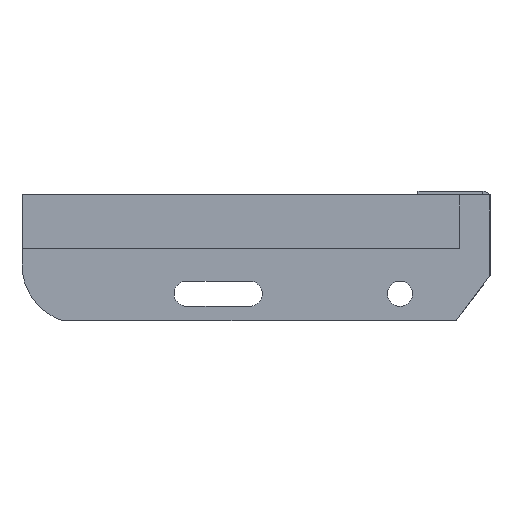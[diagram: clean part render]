
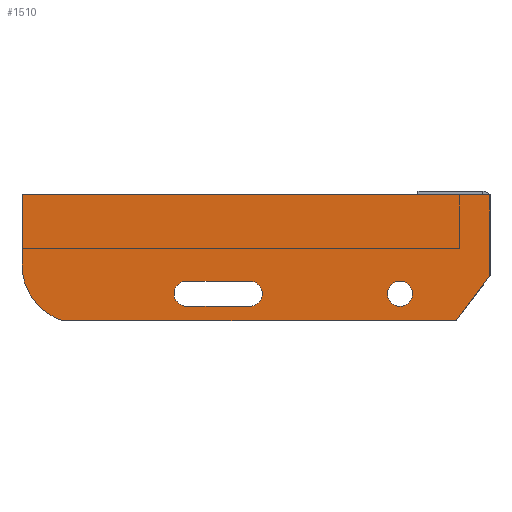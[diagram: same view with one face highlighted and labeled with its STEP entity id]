
A CAD part, left-side view. The second image highlights one B-rep face of the part: STEP entity #1510.
In plain terms, the highlighted planar face has unit normal (-1, 0, 0) as drawn and (0, 0, 1) by its records, which use the part's own axes.
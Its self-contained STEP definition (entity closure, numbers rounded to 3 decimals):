
#26 = EDGE_LOOP ( 'NONE', ( #641, #803, #751, #86, #760, #1538 ) ) ;
#33 = VERTEX_POINT ( 'NONE', #1019 ) ;
#38 = AXIS2_PLACEMENT_3D ( 'NONE', #1896, #489, #1738 ) ;
#70 = PLANE ( 'NONE',  #420 ) ;
#73 = EDGE_CURVE ( 'NONE', #260, #883, #666, .T. ) ;
#86 = ORIENTED_EDGE ( 'NONE', *, *, #1633, .T. ) ;
#96 = VERTEX_POINT ( 'NONE', #1001 ) ;
#115 = VERTEX_POINT ( 'NONE', #836 ) ;
#118 = DIRECTION ( 'NONE',  ( 0., 0., 1. ) ) ;
#146 = EDGE_CURVE ( 'NONE', #33, #1758, #831, .T. ) ;
#177 = CIRCLE ( 'NONE', #1146, 7. ) ;
#213 = CARTESIAN_POINT ( 'NONE',  ( -168.5, -62., 3. ) ) ;
#224 = DIRECTION ( 'NONE',  ( 0., 0., 1. ) ) ;
#236 = CIRCLE ( 'NONE', #1807, 7. ) ;
#248 = FACE_BOUND ( 'NONE', #585, .T. ) ;
#256 = VECTOR ( 'NONE', #1075, 1000. ) ;
#260 = VERTEX_POINT ( 'NONE', #1674 ) ;
#284 = ORIENTED_EDGE ( 'NONE', *, *, #1202, .F. ) ;
#291 = DIRECTION ( 'NONE',  ( 0., -1., 0. ) ) ;
#299 = EDGE_CURVE ( 'NONE', #1758, #1809, #435, .T. ) ;
#333 = DIRECTION ( 'NONE',  ( 0., 0., 1. ) ) ;
#338 = AXIS2_PLACEMENT_3D ( 'NONE', #1606, #518, #587 ) ;
#420 = AXIS2_PLACEMENT_3D ( 'NONE', #1159, #1799, #1619 ) ;
#431 = EDGE_CURVE ( 'NONE', #115, #96, #1109, .T. ) ;
#435 = LINE ( 'NONE', #1682, #1311 ) ;
#438 = ORIENTED_EDGE ( 'NONE', *, *, #929, .F. ) ;
#468 = CARTESIAN_POINT ( 'NONE',  ( -168.5, -48., 3. ) ) ;
#489 = DIRECTION ( 'NONE',  ( 0., 0., 1. ) ) ;
#518 = DIRECTION ( 'NONE',  ( 0., 0., 1. ) ) ;
#523 = EDGE_CURVE ( 'NONE', #718, #894, #177, .T. ) ;
#585 = EDGE_LOOP ( 'NONE', ( #438, #1054, #284, #905, #972 ) ) ;
#587 = DIRECTION ( 'NONE',  ( 1., 0., 0. ) ) ;
#605 = VERTEX_POINT ( 'NONE', #1158 ) ;
#641 = ORIENTED_EDGE ( 'NONE', *, *, #1777, .T. ) ;
#650 = VERTEX_POINT ( 'NONE', #811 ) ;
#655 = CARTESIAN_POINT ( 'NONE',  ( -260., -39., 3. ) ) ;
#666 = CIRCLE ( 'NONE', #1912, 7. ) ;
#692 = CARTESIAN_POINT ( 'NONE',  ( -133.5, -48., 3. ) ) ;
#718 = VERTEX_POINT ( 'NONE', #1016 ) ;
#736 = EDGE_CURVE ( 'NONE', #883, #260, #915, .T. ) ;
#740 = VECTOR ( 'NONE', #1387, 1000. ) ;
#751 = ORIENTED_EDGE ( 'NONE', *, *, #299, .T. ) ;
#760 = ORIENTED_EDGE ( 'NONE', *, *, #1628, .T. ) ;
#789 = DIRECTION ( 'NONE',  ( 1., 0., 0. ) ) ;
#791 = LINE ( 'NONE', #1088, #256 ) ;
#803 = ORIENTED_EDGE ( 'NONE', *, *, #146, .T. ) ;
#811 = CARTESIAN_POINT ( 'NONE',  ( -168.5, -48., 3. ) ) ;
#821 = FACE_OUTER_BOUND ( 'NONE', #26, .T. ) ;
#831 = LINE ( 'NONE', #859, #1396 ) ;
#834 = VECTOR ( 'NONE', #1377, 1000. ) ;
#836 = CARTESIAN_POINT ( 'NONE',  ( -18.839, -70., 3. ) ) ;
#859 = CARTESIAN_POINT ( 'NONE',  ( 0., 0., 3. ) ) ;
#883 = VERTEX_POINT ( 'NONE', #1493 ) ;
#894 = VERTEX_POINT ( 'NONE', #692 ) ;
#905 = ORIENTED_EDGE ( 'NONE', *, *, #1360, .F. ) ;
#910 = CARTESIAN_POINT ( 'NONE',  ( -227.5, -39., 3. ) ) ;
#915 = CIRCLE ( 'NONE', #338, 7. ) ;
#929 = EDGE_CURVE ( 'NONE', #1413, #718, #994, .T. ) ;
#931 = DIRECTION ( 'NONE',  ( 0., 0., 1. ) ) ;
#937 = CARTESIAN_POINT ( 'NONE',  ( -175.5, -55., 3. ) ) ;
#947 = CIRCLE ( 'NONE', #38, 7. ) ;
#967 = DIRECTION ( 'NONE',  ( 0.602, 0.799, 0. ) ) ;
#972 = ORIENTED_EDGE ( 'NONE', *, *, #523, .F. ) ;
#994 = LINE ( 'NONE', #1131, #1080 ) ;
#1001 = CARTESIAN_POINT ( 'NONE',  ( 0., -45., 3. ) ) ;
#1016 = CARTESIAN_POINT ( 'NONE',  ( -133.5, -62., 3. ) ) ;
#1017 = FACE_BOUND ( 'NONE', #1376, .T. ) ;
#1019 = CARTESIAN_POINT ( 'NONE',  ( 0., 0., 3. ) ) ;
#1031 = LINE ( 'NONE', #1533, #740 ) ;
#1054 = ORIENTED_EDGE ( 'NONE', *, *, #1228, .F. ) ;
#1075 = DIRECTION ( 'NONE',  ( 0., 1., 0. ) ) ;
#1080 = VECTOR ( 'NONE', #1614, 1000. ) ;
#1088 = CARTESIAN_POINT ( 'NONE',  ( 0., 0., 3. ) ) ;
#1109 = LINE ( 'NONE', #1568, #1849 ) ;
#1131 = CARTESIAN_POINT ( 'NONE',  ( -168.5, -62., 3. ) ) ;
#1146 = AXIS2_PLACEMENT_3D ( 'NONE', #1397, #333, #1909 ) ;
#1158 = CARTESIAN_POINT ( 'NONE',  ( -237.26, -70., 3. ) ) ;
#1159 = CARTESIAN_POINT ( 'NONE',  ( -227.5, -39., 3. ) ) ;
#1202 = EDGE_CURVE ( 'NONE', #650, #1265, #236, .T. ) ;
#1223 = LINE ( 'NONE', #468, #834 ) ;
#1224 = CIRCLE ( 'NONE', #1892, 32.5 ) ;
#1228 = EDGE_CURVE ( 'NONE', #1265, #1413, #947, .T. ) ;
#1265 = VERTEX_POINT ( 'NONE', #937 ) ;
#1291 = CARTESIAN_POINT ( 'NONE',  ( -50., -55., 3. ) ) ;
#1311 = VECTOR ( 'NONE', #291, 1000. ) ;
#1360 = EDGE_CURVE ( 'NONE', #894, #650, #1223, .T. ) ;
#1376 = EDGE_LOOP ( 'NONE', ( #1438, #1842 ) ) ;
#1377 = DIRECTION ( 'NONE',  ( -1., 0., 0. ) ) ;
#1387 = DIRECTION ( 'NONE',  ( 1., 0., 0. ) ) ;
#1396 = VECTOR ( 'NONE', #1605, 1000. ) ;
#1397 = CARTESIAN_POINT ( 'NONE',  ( -133.5, -55., 3. ) ) ;
#1413 = VERTEX_POINT ( 'NONE', #213 ) ;
#1438 = ORIENTED_EDGE ( 'NONE', *, *, #736, .F. ) ;
#1493 = CARTESIAN_POINT ( 'NONE',  ( -57., -55., 3. ) ) ;
#1510 = ADVANCED_FACE ( 'NONE', ( #821, #1017, #248 ), #70, .T. ) ;
#1533 = CARTESIAN_POINT ( 'NONE',  ( -18.839, -70., 3. ) ) ;
#1538 = ORIENTED_EDGE ( 'NONE', *, *, #431, .T. ) ;
#1568 = CARTESIAN_POINT ( 'NONE',  ( 0., -45., 3. ) ) ;
#1574 = CARTESIAN_POINT ( 'NONE',  ( -168.5, -55., 3. ) ) ;
#1605 = DIRECTION ( 'NONE',  ( -1., 0., 0. ) ) ;
#1606 = CARTESIAN_POINT ( 'NONE',  ( -50., -55., 3. ) ) ;
#1614 = DIRECTION ( 'NONE',  ( 1., 0., 0. ) ) ;
#1619 = DIRECTION ( 'NONE',  ( 1., 0., 0. ) ) ;
#1628 = EDGE_CURVE ( 'NONE', #605, #115, #1031, .T. ) ;
#1633 = EDGE_CURVE ( 'NONE', #1809, #605, #1224, .T. ) ;
#1674 = CARTESIAN_POINT ( 'NONE',  ( -43., -55., 3. ) ) ;
#1682 = CARTESIAN_POINT ( 'NONE',  ( -260., 0., 3. ) ) ;
#1693 = CARTESIAN_POINT ( 'NONE',  ( -260., 0., 3. ) ) ;
#1738 = DIRECTION ( 'NONE',  ( 1., 0., 0. ) ) ;
#1758 = VERTEX_POINT ( 'NONE', #1693 ) ;
#1775 = DIRECTION ( 'NONE',  ( 1., 0., 0. ) ) ;
#1777 = EDGE_CURVE ( 'NONE', #96, #33, #791, .T. ) ;
#1799 = DIRECTION ( 'NONE',  ( 0., 0., 1. ) ) ;
#1807 = AXIS2_PLACEMENT_3D ( 'NONE', #1574, #931, #789 ) ;
#1809 = VERTEX_POINT ( 'NONE', #655 ) ;
#1842 = ORIENTED_EDGE ( 'NONE', *, *, #73, .F. ) ;
#1849 = VECTOR ( 'NONE', #967, 1000. ) ;
#1892 = AXIS2_PLACEMENT_3D ( 'NONE', #910, #118, #1987 ) ;
#1896 = CARTESIAN_POINT ( 'NONE',  ( -168.5, -55., 3. ) ) ;
#1909 = DIRECTION ( 'NONE',  ( 1., 0., 0. ) ) ;
#1912 = AXIS2_PLACEMENT_3D ( 'NONE', #1291, #224, #1775 ) ;
#1987 = DIRECTION ( 'NONE',  ( 1., 0., 0. ) ) ;
